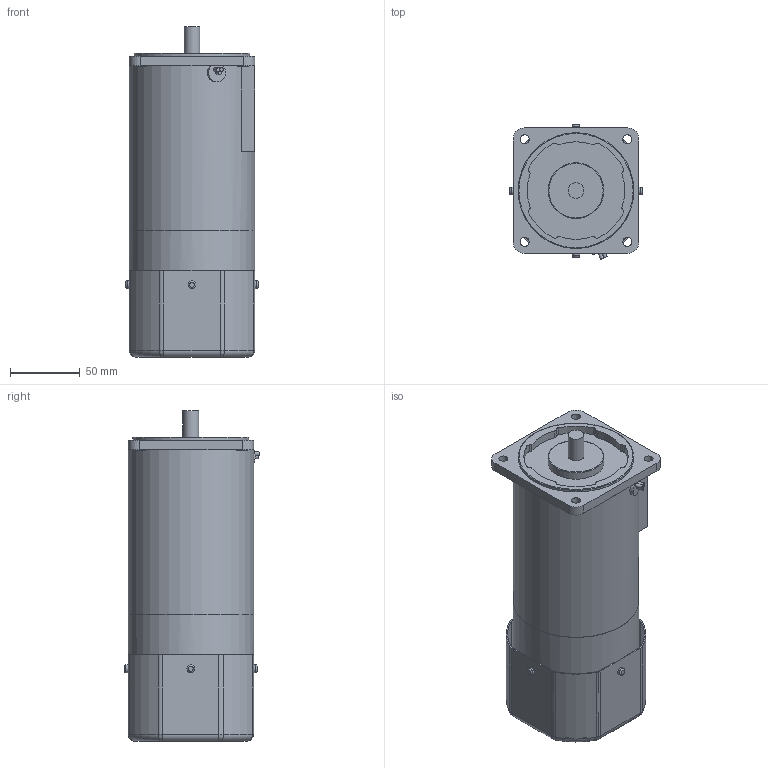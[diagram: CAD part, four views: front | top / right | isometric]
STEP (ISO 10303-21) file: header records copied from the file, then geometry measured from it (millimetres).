
FILE_DESCRIPTION((''),'2;1');
FILE_NAME('E:\2공장-도면\3D\표준형 3D(민규)\step file\D\K9RP120Fㅁ-D.stp','2014-11-17T11:05:51',('AHN'),(''),'Autodesk Inventor 2012','Autodesk Inventor 2012','');
FILE_SCHEMA(('CONFIG_CONTROL_DESIGN'));
Length unit declared in the file: millimetre
Products named in the file (1): K9RP120Fㅁ-D
Bounding box: 95 x 96.71 x 237 mm (x, y, z)
Volume: 1308500.4 mm3; surface area: 120353.1 mm2
Topology: 1 solids, 1 shells, 244 faces, 603 edges, 367 vertices
Faces by surface type: cylinder 125, plane 73, torus 38, bspline 8
Full cylindrical faces by diameter (mm): 5.5 x4, 6.5 x4, 8 x4, 11.3 x1, 40 x1, 83 x1, 89.8 x1, 90 x2
Entity records: 7876 total; most frequent: CARTESIAN_POINT 2055, DIRECTION 1257, ORIENTED_EDGE 1152, EDGE_CURVE 576, AXIS2_PLACEMENT_3D 501, VERTEX_POINT 364, EDGE_LOOP 315, CIRCLE 264
